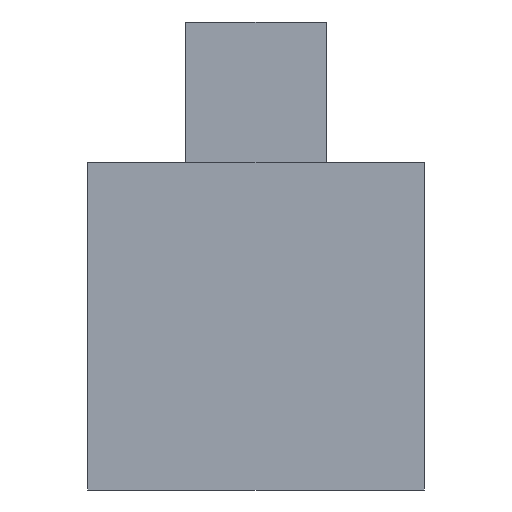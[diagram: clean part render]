
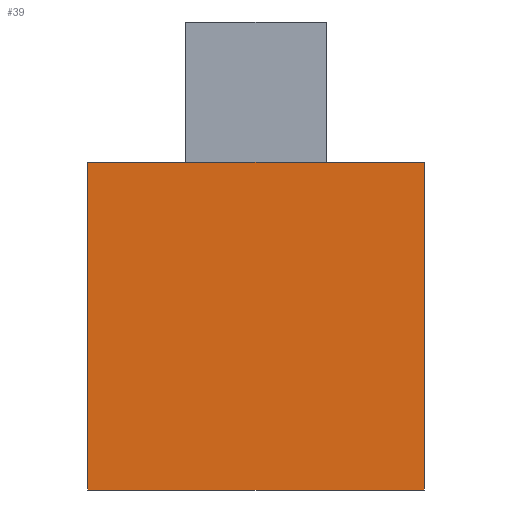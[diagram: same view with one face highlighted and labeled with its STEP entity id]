
A CAD part, left-side view. The second image highlights one B-rep face of the part: STEP entity #39.
In plain terms, the highlighted planar face has unit normal (-1, 0, 0).
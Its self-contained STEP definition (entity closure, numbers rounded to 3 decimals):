
#39 = ADVANCED_FACE('',(#40),#54,.F.);
#40 = FACE_BOUND('',#41,.F.);
#41 = EDGE_LOOP('',(#42,#77,#105,#133));
#42 = ORIENTED_EDGE('',*,*,#43,.F.);
#43 = EDGE_CURVE('',#44,#46,#48,.T.);
#44 = VERTEX_POINT('',#45);
#45 = CARTESIAN_POINT('',(-4.5,-1.8,0.));
#46 = VERTEX_POINT('',#47);
#47 = CARTESIAN_POINT('',(-4.5,-1.8,3.5));
#48 = SURFACE_CURVE('',#49,(#53,#65),.PCURVE_S1.);
#49 = LINE('',#50,#51);
#50 = CARTESIAN_POINT('',(-4.5,-1.8,0.));
#51 = VECTOR('',#52,1.);
#52 = DIRECTION('',(0.,0.,1.));
#53 = PCURVE('',#54,#59);
#54 = PLANE('',#55);
#55 = AXIS2_PLACEMENT_3D('',#56,#57,#58);
#56 = CARTESIAN_POINT('',(-4.5,-1.8,0.));
#57 = DIRECTION('',(1.,0.,-0.));
#58 = DIRECTION('',(0.,0.,1.));
#59 = DEFINITIONAL_REPRESENTATION('',(#60),#64);
#60 = LINE('',#61,#62);
#61 = CARTESIAN_POINT('',(0.,0.));
#62 = VECTOR('',#63,1.);
#63 = DIRECTION('',(1.,0.));
#64 = ( GEOMETRIC_REPRESENTATION_CONTEXT(2) 
PARAMETRIC_REPRESENTATION_CONTEXT() REPRESENTATION_CONTEXT('2D SPACE',''
  ) );
#65 = PCURVE('',#66,#71);
#66 = PLANE('',#67);
#67 = AXIS2_PLACEMENT_3D('',#68,#69,#70);
#68 = CARTESIAN_POINT('',(-4.5,-1.8,0.));
#69 = DIRECTION('',(-0.,1.,0.));
#70 = DIRECTION('',(0.,0.,1.));
#71 = DEFINITIONAL_REPRESENTATION('',(#72),#76);
#72 = LINE('',#73,#74);
#73 = CARTESIAN_POINT('',(0.,0.));
#74 = VECTOR('',#75,1.);
#75 = DIRECTION('',(1.,0.));
#76 = ( GEOMETRIC_REPRESENTATION_CONTEXT(2) 
PARAMETRIC_REPRESENTATION_CONTEXT() REPRESENTATION_CONTEXT('2D SPACE',''
  ) );
#77 = ORIENTED_EDGE('',*,*,#78,.T.);
#78 = EDGE_CURVE('',#44,#79,#81,.T.);
#79 = VERTEX_POINT('',#80);
#80 = CARTESIAN_POINT('',(-4.5,1.8,0.));
#81 = SURFACE_CURVE('',#82,(#86,#93),.PCURVE_S1.);
#82 = LINE('',#83,#84);
#83 = CARTESIAN_POINT('',(-4.5,-1.8,0.));
#84 = VECTOR('',#85,1.);
#85 = DIRECTION('',(-0.,1.,0.));
#86 = PCURVE('',#54,#87);
#87 = DEFINITIONAL_REPRESENTATION('',(#88),#92);
#88 = LINE('',#89,#90);
#89 = CARTESIAN_POINT('',(0.,0.));
#90 = VECTOR('',#91,1.);
#91 = DIRECTION('',(0.,-1.));
#92 = ( GEOMETRIC_REPRESENTATION_CONTEXT(2) 
PARAMETRIC_REPRESENTATION_CONTEXT() REPRESENTATION_CONTEXT('2D SPACE',''
  ) );
#93 = PCURVE('',#94,#99);
#94 = PLANE('',#95);
#95 = AXIS2_PLACEMENT_3D('',#96,#97,#98);
#96 = CARTESIAN_POINT('',(-4.5,-1.8,0.));
#97 = DIRECTION('',(0.,0.,1.));
#98 = DIRECTION('',(1.,0.,-0.));
#99 = DEFINITIONAL_REPRESENTATION('',(#100),#104);
#100 = LINE('',#101,#102);
#101 = CARTESIAN_POINT('',(0.,0.));
#102 = VECTOR('',#103,1.);
#103 = DIRECTION('',(0.,1.));
#104 = ( GEOMETRIC_REPRESENTATION_CONTEXT(2) 
PARAMETRIC_REPRESENTATION_CONTEXT() REPRESENTATION_CONTEXT('2D SPACE',''
  ) );
#105 = ORIENTED_EDGE('',*,*,#106,.T.);
#106 = EDGE_CURVE('',#79,#107,#109,.T.);
#107 = VERTEX_POINT('',#108);
#108 = CARTESIAN_POINT('',(-4.5,1.8,3.5));
#109 = SURFACE_CURVE('',#110,(#114,#121),.PCURVE_S1.);
#110 = LINE('',#111,#112);
#111 = CARTESIAN_POINT('',(-4.5,1.8,0.));
#112 = VECTOR('',#113,1.);
#113 = DIRECTION('',(0.,0.,1.));
#114 = PCURVE('',#54,#115);
#115 = DEFINITIONAL_REPRESENTATION('',(#116),#120);
#116 = LINE('',#117,#118);
#117 = CARTESIAN_POINT('',(0.,-3.6));
#118 = VECTOR('',#119,1.);
#119 = DIRECTION('',(1.,0.));
#120 = ( GEOMETRIC_REPRESENTATION_CONTEXT(2) 
PARAMETRIC_REPRESENTATION_CONTEXT() REPRESENTATION_CONTEXT('2D SPACE',''
  ) );
#121 = PCURVE('',#122,#127);
#122 = PLANE('',#123);
#123 = AXIS2_PLACEMENT_3D('',#124,#125,#126);
#124 = CARTESIAN_POINT('',(-4.5,1.8,0.));
#125 = DIRECTION('',(-0.,1.,0.));
#126 = DIRECTION('',(0.,0.,1.));
#127 = DEFINITIONAL_REPRESENTATION('',(#128),#132);
#128 = LINE('',#129,#130);
#129 = CARTESIAN_POINT('',(0.,0.));
#130 = VECTOR('',#131,1.);
#131 = DIRECTION('',(1.,0.));
#132 = ( GEOMETRIC_REPRESENTATION_CONTEXT(2) 
PARAMETRIC_REPRESENTATION_CONTEXT() REPRESENTATION_CONTEXT('2D SPACE',''
  ) );
#133 = ORIENTED_EDGE('',*,*,#134,.F.);
#134 = EDGE_CURVE('',#46,#107,#135,.T.);
#135 = SURFACE_CURVE('',#136,(#140,#147),.PCURVE_S1.);
#136 = LINE('',#137,#138);
#137 = CARTESIAN_POINT('',(-4.5,-1.8,3.5));
#138 = VECTOR('',#139,1.);
#139 = DIRECTION('',(-0.,1.,0.));
#140 = PCURVE('',#54,#141);
#141 = DEFINITIONAL_REPRESENTATION('',(#142),#146);
#142 = LINE('',#143,#144);
#143 = CARTESIAN_POINT('',(3.5,0.));
#144 = VECTOR('',#145,1.);
#145 = DIRECTION('',(0.,-1.));
#146 = ( GEOMETRIC_REPRESENTATION_CONTEXT(2) 
PARAMETRIC_REPRESENTATION_CONTEXT() REPRESENTATION_CONTEXT('2D SPACE',''
  ) );
#147 = PCURVE('',#148,#153);
#148 = PLANE('',#149);
#149 = AXIS2_PLACEMENT_3D('',#150,#151,#152);
#150 = CARTESIAN_POINT('',(-4.5,-1.8,3.5));
#151 = DIRECTION('',(0.,0.,1.));
#152 = DIRECTION('',(1.,0.,-0.));
#153 = DEFINITIONAL_REPRESENTATION('',(#154),#158);
#154 = LINE('',#155,#156);
#155 = CARTESIAN_POINT('',(0.,0.));
#156 = VECTOR('',#157,1.);
#157 = DIRECTION('',(0.,1.));
#158 = ( GEOMETRIC_REPRESENTATION_CONTEXT(2) 
PARAMETRIC_REPRESENTATION_CONTEXT() REPRESENTATION_CONTEXT('2D SPACE',''
  ) );
